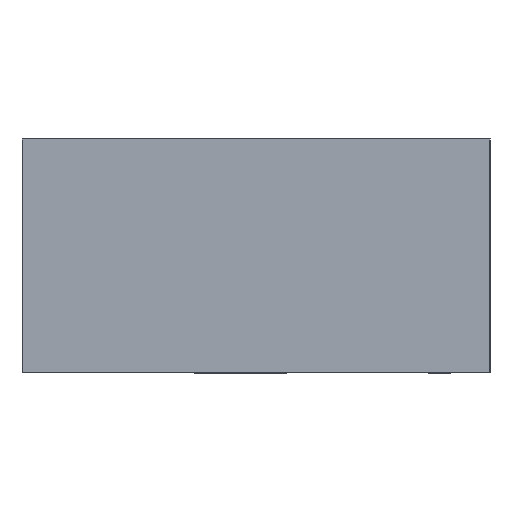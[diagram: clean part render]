
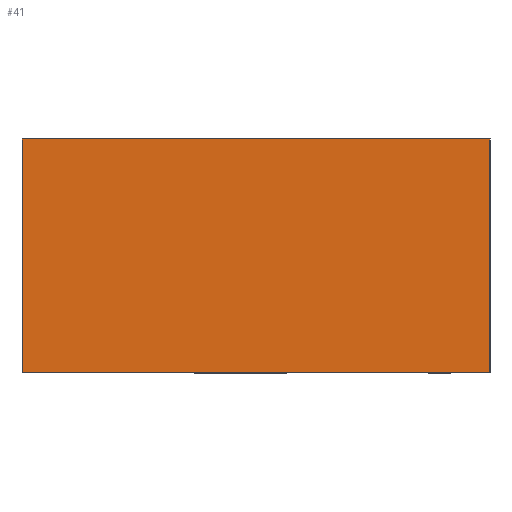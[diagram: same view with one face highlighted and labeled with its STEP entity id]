
A CAD part, left-side view. The second image highlights one B-rep face of the part: STEP entity #41.
In plain terms, the highlighted planar face has unit normal (-1, 0, 0).
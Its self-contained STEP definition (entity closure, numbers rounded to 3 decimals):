
#41=ADVANCED_FACE('',(#75),#1054,.T.);
#75=FACE_OUTER_BOUND('',#113,.T.);
#113=EDGE_LOOP('',(#178,#179,#180,#181));
#178=ORIENTED_EDGE('',*,*,#744,.F.);
#179=ORIENTED_EDGE('',*,*,#747,.F.);
#180=ORIENTED_EDGE('',*,*,#754,.F.);
#181=ORIENTED_EDGE('',*,*,#756,.F.);
#364=PCURVE('',#1050,#516);
#368=PCURVE('',#1051,#520);
#376=PCURVE('',#1052,#528);
#380=PCURVE('',#1053,#532);
#386=PCURVE('',#1054,#538);
#387=PCURVE('',#1054,#539);
#388=PCURVE('',#1054,#540);
#389=PCURVE('',#1054,#541);
#516=DEFINITIONAL_REPRESENTATION('',(#827),#2545);
#520=DEFINITIONAL_REPRESENTATION('',(#834),#2545);
#528=DEFINITIONAL_REPRESENTATION('',(#845),#2545);
#532=DEFINITIONAL_REPRESENTATION('',(#851),#2545);
#538=DEFINITIONAL_REPRESENTATION('',(#857),#2545);
#539=DEFINITIONAL_REPRESENTATION('',(#858),#2545);
#540=DEFINITIONAL_REPRESENTATION('',(#859),#2545);
#541=DEFINITIONAL_REPRESENTATION('',(#860),#2545);
#668=SURFACE_CURVE('',#826,(#364,#386),.PCURVE_S1.);
#671=SURFACE_CURVE('',#833,(#368,#387),.PCURVE_S1.);
#678=SURFACE_CURVE('',#844,(#376,#388),.PCURVE_S1.);
#680=SURFACE_CURVE('',#850,(#380,#389),.PCURVE_S1.);
#744=EDGE_CURVE('',#994,#995,#668,.T.);
#747=EDGE_CURVE('',#996,#994,#671,.T.);
#754=EDGE_CURVE('',#997,#996,#678,.T.);
#756=EDGE_CURVE('',#995,#997,#680,.T.);
#826=B_SPLINE_CURVE_WITH_KNOTS('',1,(#1532,#1533),.UNSPECIFIED.,.F.,.F.,
(2,2),(-20.,0.),.UNSPECIFIED.);
#827=B_SPLINE_CURVE_WITH_KNOTS('',1,(#1534,#1535),.UNSPECIFIED.,.F.,.F.,
(2,2),(-20.,0.),.UNSPECIFIED.);
#833=B_SPLINE_CURVE_WITH_KNOTS('',1,(#1546,#1547),.UNSPECIFIED.,.F.,.F.,
(2,2),(-60.,-20.),.UNSPECIFIED.);
#834=B_SPLINE_CURVE_WITH_KNOTS('',1,(#1548,#1549),.UNSPECIFIED.,.F.,.F.,
(2,2),(-60.,-20.),.UNSPECIFIED.);
#844=B_SPLINE_CURVE_WITH_KNOTS('',1,(#1680,#1681),.UNSPECIFIED.,.F.,.F.,
(2,2),(-80.,-60.),.UNSPECIFIED.);
#845=B_SPLINE_CURVE_WITH_KNOTS('',1,(#1682,#1683),.UNSPECIFIED.,.F.,.F.,
(2,2),(-80.,-60.),.UNSPECIFIED.);
#850=B_SPLINE_CURVE_WITH_KNOTS('',1,(#1692,#1693),.UNSPECIFIED.,.F.,.F.,
(2,2),(-120.,-80.),.UNSPECIFIED.);
#851=B_SPLINE_CURVE_WITH_KNOTS('',1,(#1694,#1695),.UNSPECIFIED.,.F.,.F.,
(2,2),(-120.,-80.),.UNSPECIFIED.);
#857=B_SPLINE_CURVE_WITH_KNOTS('',1,(#1818,#1819),.UNSPECIFIED.,.F.,.F.,
(2,2),(-20.,0.),.UNSPECIFIED.);
#858=B_SPLINE_CURVE_WITH_KNOTS('',1,(#1820,#1821),.UNSPECIFIED.,.F.,.F.,
(2,2),(-60.,-20.),.UNSPECIFIED.);
#859=B_SPLINE_CURVE_WITH_KNOTS('',1,(#1822,#1823),.UNSPECIFIED.,.F.,.F.,
(2,2),(-80.,-60.),.UNSPECIFIED.);
#860=B_SPLINE_CURVE_WITH_KNOTS('',1,(#1824,#1825),.UNSPECIFIED.,.F.,.F.,
(2,2),(-120.,-80.),.UNSPECIFIED.);
#994=VERTEX_POINT('',#1464);
#995=VERTEX_POINT('',#1465);
#996=VERTEX_POINT('',#1466);
#997=VERTEX_POINT('',#1467);
#1050=PLANE('',#1088);
#1051=PLANE('',#1089);
#1052=PLANE('',#1090);
#1053=PLANE('',#1091);
#1054=PLANE('',#1092);
#1088=AXIS2_PLACEMENT_3D('',#1130,#1105,$);
#1089=AXIS2_PLACEMENT_3D('',#1131,#1106,$);
#1090=AXIS2_PLACEMENT_3D('',#1132,#1107,$);
#1091=AXIS2_PLACEMENT_3D('',#1133,#1108,$);
#1092=AXIS2_PLACEMENT_3D('',#1134,#1109,$);
#1105=DIRECTION('',(0.,-1.,0.));
#1106=DIRECTION('',(0.,0.,1.));
#1107=DIRECTION('',(0.,1.,0.));
#1108=DIRECTION('',(0.,0.,-1.));
#1109=DIRECTION('',(-1.,0.,0.));
#1130=CARTESIAN_POINT('',(783.,35.,-36.));
#1131=CARTESIAN_POINT('',(783.,35.,-16.));
#1132=CARTESIAN_POINT('',(783.,75.,-16.));
#1133=CARTESIAN_POINT('',(783.,75.,-36.));
#1134=CARTESIAN_POINT('',(643.,75.,-36.));
#1464=CARTESIAN_POINT('',(643.,35.,-16.));
#1465=CARTESIAN_POINT('',(643.,35.,-36.));
#1466=CARTESIAN_POINT('',(643.,75.,-16.));
#1467=CARTESIAN_POINT('',(643.,75.,-36.));
#1532=CARTESIAN_POINT('',(643.,35.,-16.));
#1533=CARTESIAN_POINT('',(643.,35.,-36.));
#1534=CARTESIAN_POINT('',(20.,80.));
#1535=CARTESIAN_POINT('',(0.,80.));
#1546=CARTESIAN_POINT('',(643.,75.,-16.));
#1547=CARTESIAN_POINT('',(643.,35.,-16.));
#1548=CARTESIAN_POINT('',(60.,80.));
#1549=CARTESIAN_POINT('',(20.,80.));
#1680=CARTESIAN_POINT('',(643.,75.,-36.));
#1681=CARTESIAN_POINT('',(643.,75.,-16.));
#1682=CARTESIAN_POINT('',(80.,80.));
#1683=CARTESIAN_POINT('',(60.,80.));
#1692=CARTESIAN_POINT('',(643.,35.,-36.));
#1693=CARTESIAN_POINT('',(643.,75.,-36.));
#1694=CARTESIAN_POINT('',(120.,80.));
#1695=CARTESIAN_POINT('',(80.,80.));
#1818=CARTESIAN_POINT('',(0.,20.));
#1819=CARTESIAN_POINT('',(0.,0.));
#1820=CARTESIAN_POINT('',(-40.,20.));
#1821=CARTESIAN_POINT('',(0.,20.));
#1822=CARTESIAN_POINT('',(-40.,0.));
#1823=CARTESIAN_POINT('',(-40.,20.));
#1824=CARTESIAN_POINT('',(0.,0.));
#1825=CARTESIAN_POINT('',(-40.,0.));
#2545=(
GEOMETRIC_REPRESENTATION_CONTEXT(2)
PARAMETRIC_REPRESENTATION_CONTEXT()
REPRESENTATION_CONTEXT('pspace','')
);
